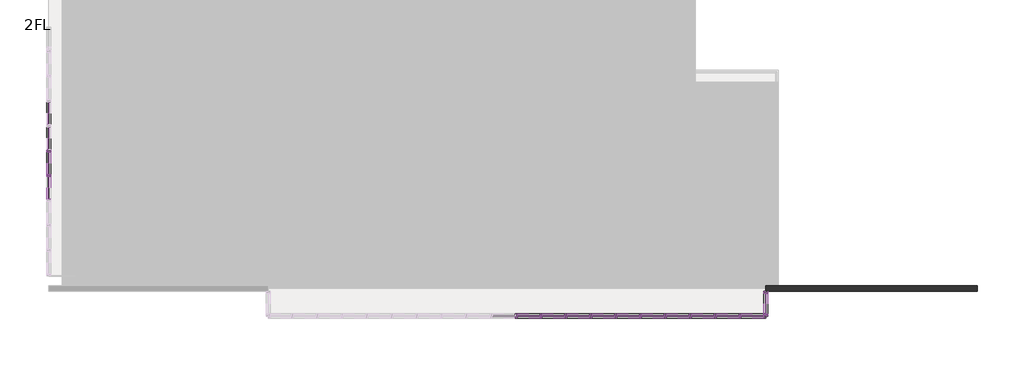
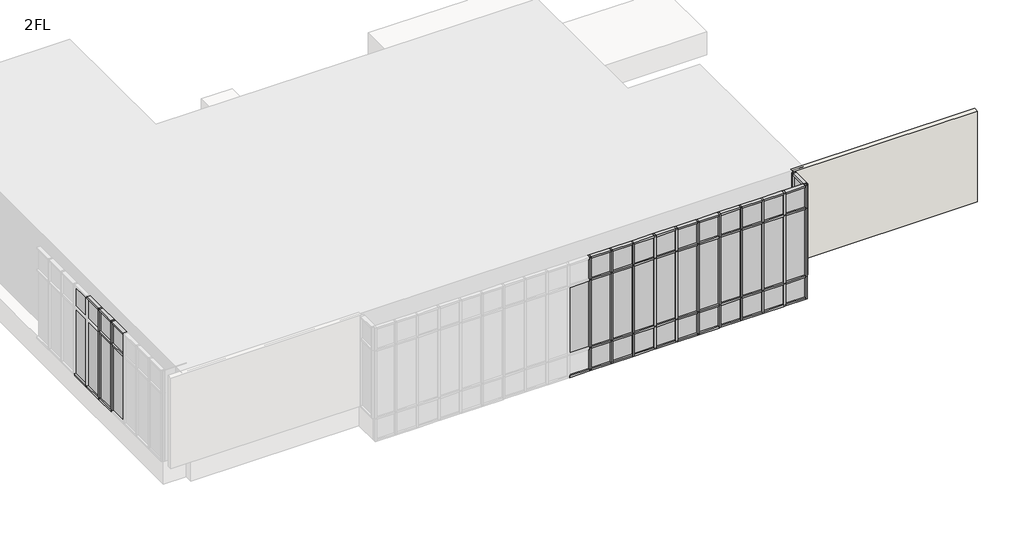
# One storey, part 2 of 4: 93 members, 41 plates, 1 wall.
"""IFC4 building model written with IfcOpenShell, lengths in millimetres."""

from ifc_helpers import new_model, si_unit, origin, place, context, project, spatial, faceted_brep, transform, mapped, element, save
from components import member_70x150_cdd4dcf9, member_70x150_9a135ce4, member_70x150_66cf63de, member_70x150_26475b18, member_70x150_ad4265bc, member_70x150_e0eddb57, member_70x150_1b280ac3, member_70x150_76429c73, plate_28587fd3, plate_4b01b467, plate_396bcf3c, plate_83f08a3e, plate_a71482e5

model = new_model("IFC4")

# Units and contexts
model_context = context("Model", 3, world=origin())
ifc_project = project(units=[si_unit("LENGTHUNIT", "METRE", prefix="MILLI")], contexts=[model_context])

# Site, building, storey
site = spatial("IfcSite", under=ifc_project)
building = spatial("IfcBuilding", under=site)
storey = spatial("IfcBuildingStorey", under=building, Name="2FL", Elevation=4600.0)

# Members
placement = place(None, origin())
member_70x150_shape = member_70x150_cdd4dcf9(model_context)
element("IfcMember", 1, ObjectType="長方形のマリオン : 70x150", at=placement, inside=storey, context=model_context, shape_type="MappedRepresentation", body=[
    mapped(member_70x150_shape, transform((-29345.9784025, 1434.6868987, 4600.0), x_axis=(0.0, 1.0, 0.0), y_axis=(1.0, 0.0, 0.0), z_axis=(0.0, 0.0, -1.0))),
])
element("IfcMember", 2, ObjectType="長方形のマリオン : 70x150", at=placement, inside=storey, context=model_context, shape_type="MappedRepresentation", body=[
    mapped(member_70x150_shape, transform((-29345.9784025, 534.6868987, 4600.0), x_axis=(0.0, 1.0, 0.0), y_axis=(1.0, 0.0, 0.0), z_axis=(0.0, 0.0, -1.0))),
])
member_70x150_2_shape = member_70x150_9a135ce4(model_context)
element("IfcMember", 3, ObjectType="長方形のマリオン : 70x150", at=placement, inside=storey, context=model_context, shape_type="MappedRepresentation", body=[
    mapped(member_70x150_2_shape, transform((-3395.9784025, -4480.3131013, 8600.0), x_axis=(0.0, 0.0, 1.0), y_axis=(-1.0, 0.0, 0.0), z_axis=(0.0, -1.0, 0.0))),
])
member_70x150_3_shape = member_70x150_66cf63de(model_context)
element("IfcMember", 4, ObjectType="長方形のマリオン : 70x150", at=placement, inside=storey, context=model_context, shape_type="MappedRepresentation", body=[
    mapped(member_70x150_3_shape, transform((-12465.9784025, -4550.3131013, 3600.0), x_axis=(0.0, 0.0, -1.0), y_axis=(0.0, 1.0, 0.0), z_axis=(1.0, 0.0, 0.0))),
])
element("IfcMember", 5, ObjectType="長方形のマリオン : 70x150", at=placement, inside=storey, context=model_context, shape_type="MappedRepresentation", body=[
    mapped(member_70x150_3_shape, transform((-11565.9784025, -4550.3131013, 3600.0), x_axis=(0.0, 0.0, -1.0), y_axis=(0.0, 1.0, 0.0), z_axis=(1.0, 0.0, 0.0))),
])
element("IfcMember", 6, ObjectType="長方形のマリオン : 70x150", at=placement, inside=storey, context=model_context, shape_type="MappedRepresentation", body=[
    mapped(member_70x150_3_shape, transform((-10665.9784025, -4550.3131013, 3600.0), x_axis=(0.0, 0.0, -1.0), y_axis=(0.0, 1.0, 0.0), z_axis=(1.0, 0.0, 0.0))),
])
element("IfcMember", 7, ObjectType="長方形のマリオン : 70x150", at=placement, inside=storey, context=model_context, shape_type="MappedRepresentation", body=[
    mapped(member_70x150_3_shape, transform((-9765.9784025, -4550.3131013, 3600.0), x_axis=(0.0, 0.0, -1.0), y_axis=(0.0, 1.0, 0.0), z_axis=(1.0, 0.0, 0.0))),
])
element("IfcMember", 8, ObjectType="長方形のマリオン : 70x150", at=placement, inside=storey, context=model_context, shape_type="MappedRepresentation", body=[
    mapped(member_70x150_3_shape, transform((-8865.9784025, -4550.3131013, 3600.0), x_axis=(0.0, 0.0, -1.0), y_axis=(0.0, 1.0, 0.0), z_axis=(1.0, 0.0, 0.0))),
])
element("IfcMember", 9, ObjectType="長方形のマリオン : 70x150", at=placement, inside=storey, context=model_context, shape_type="MappedRepresentation", body=[
    mapped(member_70x150_3_shape, transform((-7965.9784025, -4550.3131013, 3600.0), x_axis=(0.0, 0.0, -1.0), y_axis=(0.0, 1.0, 0.0), z_axis=(1.0, 0.0, 0.0))),
])
element("IfcMember", 10, ObjectType="長方形のマリオン : 70x150", at=placement, inside=storey, context=model_context, shape_type="MappedRepresentation", body=[
    mapped(member_70x150_3_shape, transform((-7065.9784025, -4550.3131013, 3600.0), x_axis=(0.0, 0.0, -1.0), y_axis=(0.0, 1.0, 0.0), z_axis=(1.0, 0.0, 0.0))),
])
element("IfcMember", 11, ObjectType="長方形のマリオン : 70x150", at=placement, inside=storey, context=model_context, shape_type="MappedRepresentation", body=[
    mapped(member_70x150_3_shape, transform((-6165.9784025, -4550.3131013, 3600.0), x_axis=(0.0, 0.0, -1.0), y_axis=(0.0, 1.0, 0.0), z_axis=(1.0, 0.0, 0.0))),
])
element("IfcMember", 12, ObjectType="長方形のマリオン : 70x150", at=placement, inside=storey, context=model_context, shape_type="MappedRepresentation", body=[
    mapped(member_70x150_3_shape, transform((-5265.9784025, -4550.3131013, 3600.0), x_axis=(0.0, 0.0, -1.0), y_axis=(0.0, 1.0, 0.0), z_axis=(1.0, 0.0, 0.0))),
])
element("IfcMember", 13, ObjectType="長方形のマリオン : 70x150", at=placement, inside=storey, context=model_context, shape_type="MappedRepresentation", body=[
    mapped(member_70x150_3_shape, transform((-4365.9784025, -4550.3131013, 3600.0), x_axis=(0.0, 0.0, -1.0), y_axis=(0.0, 1.0, 0.0), z_axis=(1.0, 0.0, 0.0))),
])
element("IfcMember", 14, ObjectType="長方形のマリオン : 70x150", at=placement, inside=storey, context=model_context, shape_type="MappedRepresentation", body=[
    mapped(member_70x150_3_shape, transform((-3465.9784025, -4550.3131013, 3600.0), x_axis=(0.0, 0.0, -1.0), y_axis=(0.0, 1.0, 0.0), z_axis=(1.0, 0.0, 0.0))),
])
element("IfcMember", 15, ObjectType="長方形のマリオン : 70x150", at=placement, inside=storey, context=model_context, shape_type="MappedRepresentation", body=[
    mapped(member_70x150_3_shape, transform((-29345.9784025, 2369.6868987, 4600.0), x_axis=(0.0, 0.0, -1.0), y_axis=(1.0, 0.0, 0.0), z_axis=(0.0, -1.0, 0.0))),
])
element("IfcMember", 16, ObjectType="長方形のマリオン : 70x150", at=placement, inside=storey, context=model_context, shape_type="MappedRepresentation", body=[
    mapped(member_70x150_3_shape, transform((-29345.9784025, 1469.6868987, 4600.0), x_axis=(0.0, 0.0, -1.0), y_axis=(1.0, 0.0, 0.0), z_axis=(0.0, -1.0, 0.0))),
])
element("IfcMember", 17, ObjectType="長方形のマリオン : 70x150", at=placement, inside=storey, context=model_context, shape_type="MappedRepresentation", body=[
    mapped(member_70x150_3_shape, transform((-29345.9784025, 569.6868987, 4600.0), x_axis=(0.0, 0.0, -1.0), y_axis=(1.0, 0.0, 0.0), z_axis=(0.0, -1.0, 0.0))),
])
element("IfcMember", 18, ObjectType="長方形のマリオン : 70x150", at=placement, inside=storey, context=model_context, shape_type="MappedRepresentation", body=[
    mapped(member_70x150_3_shape, transform((-12395.9784025, -4550.3131013, 8600.0), x_axis=(0.0, 0.0, 1.0), y_axis=(0.0, 1.0, 0.0), z_axis=(-1.0, 0.0, 0.0))),
])
element("IfcMember", 19, ObjectType="長方形のマリオン : 70x150", at=placement, inside=storey, context=model_context, shape_type="MappedRepresentation", body=[
    mapped(member_70x150_3_shape, transform((-11495.9784025, -4550.3131013, 8600.0), x_axis=(0.0, 0.0, 1.0), y_axis=(0.0, 1.0, 0.0), z_axis=(-1.0, 0.0, 0.0))),
])
element("IfcMember", 20, ObjectType="長方形のマリオン : 70x150", at=placement, inside=storey, context=model_context, shape_type="MappedRepresentation", body=[
    mapped(member_70x150_3_shape, transform((-10595.9784025, -4550.3131013, 8600.0), x_axis=(0.0, 0.0, 1.0), y_axis=(0.0, 1.0, 0.0), z_axis=(-1.0, 0.0, 0.0))),
])
element("IfcMember", 21, ObjectType="長方形のマリオン : 70x150", at=placement, inside=storey, context=model_context, shape_type="MappedRepresentation", body=[
    mapped(member_70x150_3_shape, transform((-9695.9784025, -4550.3131013, 8600.0), x_axis=(0.0, 0.0, 1.0), y_axis=(0.0, 1.0, 0.0), z_axis=(-1.0, 0.0, 0.0))),
])
element("IfcMember", 22, ObjectType="長方形のマリオン : 70x150", at=placement, inside=storey, context=model_context, shape_type="MappedRepresentation", body=[
    mapped(member_70x150_3_shape, transform((-8795.9784025, -4550.3131013, 8600.0), x_axis=(0.0, 0.0, 1.0), y_axis=(0.0, 1.0, 0.0), z_axis=(-1.0, 0.0, 0.0))),
])
element("IfcMember", 23, ObjectType="長方形のマリオン : 70x150", at=placement, inside=storey, context=model_context, shape_type="MappedRepresentation", body=[
    mapped(member_70x150_3_shape, transform((-7895.9784025, -4550.3131013, 8600.0), x_axis=(0.0, 0.0, 1.0), y_axis=(0.0, 1.0, 0.0), z_axis=(-1.0, 0.0, 0.0))),
])
element("IfcMember", 24, ObjectType="長方形のマリオン : 70x150", at=placement, inside=storey, context=model_context, shape_type="MappedRepresentation", body=[
    mapped(member_70x150_3_shape, transform((-6995.9784025, -4550.3131013, 8600.0), x_axis=(0.0, 0.0, 1.0), y_axis=(0.0, 1.0, 0.0), z_axis=(-1.0, 0.0, 0.0))),
])
element("IfcMember", 25, ObjectType="長方形のマリオン : 70x150", at=placement, inside=storey, context=model_context, shape_type="MappedRepresentation", body=[
    mapped(member_70x150_3_shape, transform((-6095.9784025, -4550.3131013, 8600.0), x_axis=(0.0, 0.0, 1.0), y_axis=(0.0, 1.0, 0.0), z_axis=(-1.0, 0.0, 0.0))),
])
element("IfcMember", 26, ObjectType="長方形のマリオン : 70x150", at=placement, inside=storey, context=model_context, shape_type="MappedRepresentation", body=[
    mapped(member_70x150_3_shape, transform((-5195.9784025, -4550.3131013, 8600.0), x_axis=(0.0, 0.0, 1.0), y_axis=(0.0, 1.0, 0.0), z_axis=(-1.0, 0.0, 0.0))),
])
element("IfcMember", 27, ObjectType="長方形のマリオン : 70x150", at=placement, inside=storey, context=model_context, shape_type="MappedRepresentation", body=[
    mapped(member_70x150_3_shape, transform((-4295.9784025, -4550.3131013, 8600.0), x_axis=(0.0, 0.0, 1.0), y_axis=(0.0, 1.0, 0.0), z_axis=(-1.0, 0.0, 0.0))),
])
element("IfcMember", 28, ObjectType="長方形のマリオン : 70x150", at=placement, inside=storey, context=model_context, shape_type="MappedRepresentation", body=[
    mapped(member_70x150_3_shape, transform((-29345.9784025, 2299.6868987, 8600.0), x_axis=(0.0, 0.0, 1.0), y_axis=(1.0, 0.0, 0.0), z_axis=(0.0, 1.0, 0.0))),
])
element("IfcMember", 29, ObjectType="長方形のマリオン : 70x150", at=placement, inside=storey, context=model_context, shape_type="MappedRepresentation", body=[
    mapped(member_70x150_3_shape, transform((-29345.9784025, 1399.6868987, 8600.0), x_axis=(0.0, 0.0, 1.0), y_axis=(1.0, 0.0, 0.0), z_axis=(0.0, 1.0, 0.0))),
])
element("IfcMember", 30, ObjectType="長方形のマリオン : 70x150", at=placement, inside=storey, context=model_context, shape_type="MappedRepresentation", body=[
    mapped(member_70x150_3_shape, transform((-29345.9784025, 499.6868987, 8600.0), x_axis=(0.0, 0.0, 1.0), y_axis=(1.0, 0.0, 0.0), z_axis=(0.0, 1.0, 0.0))),
])
element("IfcMember", 31, ObjectType="長方形のマリオン : 70x150", at=placement, inside=storey, context=model_context, shape_type="MappedRepresentation", body=[
    mapped(member_70x150_2_shape, transform((-3395.9784025, -3720.3131013, 4600.0), x_axis=(0.0, 0.0, -1.0), y_axis=(-1.0, 0.0, 0.0), z_axis=(0.0, 1.0, 0.0))),
])
member_70x150_4_shape = member_70x150_26475b18(model_context)
element("IfcMember", 32, ObjectType="長方形のマリオン : 70x150", at=placement, inside=storey, context=model_context, shape_type="MappedRepresentation", body=[
    mapped(member_70x150_4_shape, transform((-5230.9784025, -4550.3131013, 7600.0), x_axis=(-1.0, 0.0, 0.0), y_axis=(0.0, 1.0, 0.0), z_axis=(0.0, 0.0, -1.0))),
])
element("IfcMember", 33, ObjectType="長方形のマリオン : 70x150", at=placement, inside=storey, context=model_context, shape_type="MappedRepresentation", body=[
    mapped(member_70x150_4_shape, transform((-4330.9784025, -4550.3131013, 7600.0), x_axis=(-1.0, 0.0, 0.0), y_axis=(0.0, 1.0, 0.0), z_axis=(0.0, 0.0, -1.0))),
])
element("IfcMember", 34, ObjectType="長方形のマリオン : 70x150", at=placement, inside=storey, context=model_context, shape_type="MappedRepresentation", body=[
    mapped(member_70x150_4_shape, transform((-12430.9784025, -4550.3131013, 7600.0), x_axis=(-1.0, 0.0, 0.0), y_axis=(0.0, 1.0, 0.0), z_axis=(0.0, 0.0, -1.0))),
])
element("IfcMember", 35, ObjectType="長方形のマリオン : 70x150", at=placement, inside=storey, context=model_context, shape_type="MappedRepresentation", body=[
    mapped(member_70x150_4_shape, transform((-11530.9784025, -4550.3131013, 7600.0), x_axis=(-1.0, 0.0, 0.0), y_axis=(0.0, 1.0, 0.0), z_axis=(0.0, 0.0, -1.0))),
])
element("IfcMember", 36, ObjectType="長方形のマリオン : 70x150", at=placement, inside=storey, context=model_context, shape_type="MappedRepresentation", body=[
    mapped(member_70x150_4_shape, transform((-10630.9784025, -4550.3131013, 7600.0), x_axis=(-1.0, 0.0, 0.0), y_axis=(0.0, 1.0, 0.0), z_axis=(0.0, 0.0, -1.0))),
])
element("IfcMember", 37, ObjectType="長方形のマリオン : 70x150", at=placement, inside=storey, context=model_context, shape_type="MappedRepresentation", body=[
    mapped(member_70x150_4_shape, transform((-9730.9784025, -4550.3131013, 7600.0), x_axis=(-1.0, 0.0, 0.0), y_axis=(0.0, 1.0, 0.0), z_axis=(0.0, 0.0, -1.0))),
])
element("IfcMember", 38, ObjectType="長方形のマリオン : 70x150", at=placement, inside=storey, context=model_context, shape_type="MappedRepresentation", body=[
    mapped(member_70x150_4_shape, transform((-8830.9784025, -4550.3131013, 7600.0), x_axis=(-1.0, 0.0, 0.0), y_axis=(0.0, 1.0, 0.0), z_axis=(0.0, 0.0, -1.0))),
])
element("IfcMember", 39, ObjectType="長方形のマリオン : 70x150", at=placement, inside=storey, context=model_context, shape_type="MappedRepresentation", body=[
    mapped(member_70x150_4_shape, transform((-7930.9784025, -4550.3131013, 7600.0), x_axis=(-1.0, 0.0, 0.0), y_axis=(0.0, 1.0, 0.0), z_axis=(0.0, 0.0, -1.0))),
])
element("IfcMember", 40, ObjectType="長方形のマリオン : 70x150", at=placement, inside=storey, context=model_context, shape_type="MappedRepresentation", body=[
    mapped(member_70x150_4_shape, transform((-7030.9784025, -4550.3131013, 7600.0), x_axis=(-1.0, 0.0, 0.0), y_axis=(0.0, 1.0, 0.0), z_axis=(0.0, 0.0, -1.0))),
])
element("IfcMember", 41, ObjectType="長方形のマリオン : 70x150", at=placement, inside=storey, context=model_context, shape_type="MappedRepresentation", body=[
    mapped(member_70x150_4_shape, transform((-6130.9784025, -4550.3131013, 7600.0), x_axis=(-1.0, 0.0, 0.0), y_axis=(0.0, 1.0, 0.0), z_axis=(0.0, 0.0, -1.0))),
])
element("IfcMember", 42, ObjectType="長方形のマリオン : 70x150", at=placement, inside=storey, context=model_context, shape_type="MappedRepresentation", body=[
    mapped(member_70x150_4_shape, transform((-29345.9784025, 1434.6868987, 7600.0), x_axis=(0.0, 1.0, 0.0), y_axis=(1.0, 0.0, 0.0), z_axis=(0.0, 0.0, -1.0))),
])
element("IfcMember", 43, ObjectType="長方形のマリオン : 70x150", at=placement, inside=storey, context=model_context, shape_type="MappedRepresentation", body=[
    mapped(member_70x150_4_shape, transform((-29345.9784025, 534.6868987, 7600.0), x_axis=(0.0, 1.0, 0.0), y_axis=(1.0, 0.0, 0.0), z_axis=(0.0, 0.0, -1.0))),
])
member_70x150_5_shape = member_70x150_ad4265bc(model_context)
element("IfcMember", 44, ObjectType="長方形のマリオン : 70x150", at=placement, inside=storey, context=model_context, shape_type="MappedRepresentation", body=[
    mapped(member_70x150_5_shape, transform((-12395.9784025, -4550.3131013, 4600.0), x_axis=(0.0, 0.0, 1.0), y_axis=(0.0, 1.0, 0.0), z_axis=(-1.0, 0.0, 0.0))),
])
element("IfcMember", 45, ObjectType="長方形のマリオン : 70x150", at=placement, inside=storey, context=model_context, shape_type="MappedRepresentation", body=[
    mapped(member_70x150_5_shape, transform((-11495.9784025, -4550.3131013, 4600.0), x_axis=(0.0, 0.0, 1.0), y_axis=(0.0, 1.0, 0.0), z_axis=(-1.0, 0.0, 0.0))),
])
element("IfcMember", 46, ObjectType="長方形のマリオン : 70x150", at=placement, inside=storey, context=model_context, shape_type="MappedRepresentation", body=[
    mapped(member_70x150_5_shape, transform((-10595.9784025, -4550.3131013, 4600.0), x_axis=(0.0, 0.0, 1.0), y_axis=(0.0, 1.0, 0.0), z_axis=(-1.0, 0.0, 0.0))),
])
element("IfcMember", 47, ObjectType="長方形のマリオン : 70x150", at=placement, inside=storey, context=model_context, shape_type="MappedRepresentation", body=[
    mapped(member_70x150_5_shape, transform((-9695.9784025, -4550.3131013, 4600.0), x_axis=(0.0, 0.0, 1.0), y_axis=(0.0, 1.0, 0.0), z_axis=(-1.0, 0.0, 0.0))),
])
element("IfcMember", 48, ObjectType="長方形のマリオン : 70x150", at=placement, inside=storey, context=model_context, shape_type="MappedRepresentation", body=[
    mapped(member_70x150_5_shape, transform((-8795.9784025, -4550.3131013, 4600.0), x_axis=(0.0, 0.0, 1.0), y_axis=(0.0, 1.0, 0.0), z_axis=(-1.0, 0.0, 0.0))),
])
element("IfcMember", 49, ObjectType="長方形のマリオン : 70x150", at=placement, inside=storey, context=model_context, shape_type="MappedRepresentation", body=[
    mapped(member_70x150_5_shape, transform((-7895.9784025, -4550.3131013, 4600.0), x_axis=(0.0, 0.0, 1.0), y_axis=(0.0, 1.0, 0.0), z_axis=(-1.0, 0.0, 0.0))),
])
element("IfcMember", 50, ObjectType="長方形のマリオン : 70x150", at=placement, inside=storey, context=model_context, shape_type="MappedRepresentation", body=[
    mapped(member_70x150_5_shape, transform((-6995.9784025, -4550.3131013, 4600.0), x_axis=(0.0, 0.0, 1.0), y_axis=(0.0, 1.0, 0.0), z_axis=(-1.0, 0.0, 0.0))),
])
element("IfcMember", 51, ObjectType="長方形のマリオン : 70x150", at=placement, inside=storey, context=model_context, shape_type="MappedRepresentation", body=[
    mapped(member_70x150_5_shape, transform((-6095.9784025, -4550.3131013, 4600.0), x_axis=(0.0, 0.0, 1.0), y_axis=(0.0, 1.0, 0.0), z_axis=(-1.0, 0.0, 0.0))),
])
element("IfcMember", 52, ObjectType="長方形のマリオン : 70x150", at=placement, inside=storey, context=model_context, shape_type="MappedRepresentation", body=[
    mapped(member_70x150_5_shape, transform((-5195.9784025, -4550.3131013, 4600.0), x_axis=(0.0, 0.0, 1.0), y_axis=(0.0, 1.0, 0.0), z_axis=(-1.0, 0.0, 0.0))),
])
element("IfcMember", 53, ObjectType="長方形のマリオン : 70x150", at=placement, inside=storey, context=model_context, shape_type="MappedRepresentation", body=[
    mapped(member_70x150_5_shape, transform((-4295.9784025, -4550.3131013, 4600.0), x_axis=(0.0, 0.0, 1.0), y_axis=(0.0, 1.0, 0.0), z_axis=(-1.0, 0.0, 0.0))),
])
element("IfcMember", 54, ObjectType="長方形のマリオン : 70x150", at=placement, inside=storey, context=model_context, shape_type="MappedRepresentation", body=[
    mapped(member_70x150_5_shape, transform((-12395.9784025, -4550.3131013, 7600.0), x_axis=(0.0, 0.0, 1.0), y_axis=(0.0, 1.0, 0.0), z_axis=(-1.0, 0.0, 0.0))),
])
element("IfcMember", 55, ObjectType="長方形のマリオン : 70x150", at=placement, inside=storey, context=model_context, shape_type="MappedRepresentation", body=[
    mapped(member_70x150_5_shape, transform((-11495.9784025, -4550.3131013, 7600.0), x_axis=(0.0, 0.0, 1.0), y_axis=(0.0, 1.0, 0.0), z_axis=(-1.0, 0.0, 0.0))),
])
element("IfcMember", 56, ObjectType="長方形のマリオン : 70x150", at=placement, inside=storey, context=model_context, shape_type="MappedRepresentation", body=[
    mapped(member_70x150_5_shape, transform((-10595.9784025, -4550.3131013, 7600.0), x_axis=(0.0, 0.0, 1.0), y_axis=(0.0, 1.0, 0.0), z_axis=(-1.0, 0.0, 0.0))),
])
element("IfcMember", 57, ObjectType="長方形のマリオン : 70x150", at=placement, inside=storey, context=model_context, shape_type="MappedRepresentation", body=[
    mapped(member_70x150_5_shape, transform((-9695.9784025, -4550.3131013, 7600.0), x_axis=(0.0, 0.0, 1.0), y_axis=(0.0, 1.0, 0.0), z_axis=(-1.0, 0.0, 0.0))),
])
element("IfcMember", 58, ObjectType="長方形のマリオン : 70x150", at=placement, inside=storey, context=model_context, shape_type="MappedRepresentation", body=[
    mapped(member_70x150_5_shape, transform((-8795.9784025, -4550.3131013, 7600.0), x_axis=(0.0, 0.0, 1.0), y_axis=(0.0, 1.0, 0.0), z_axis=(-1.0, 0.0, 0.0))),
])
element("IfcMember", 59, ObjectType="長方形のマリオン : 70x150", at=placement, inside=storey, context=model_context, shape_type="MappedRepresentation", body=[
    mapped(member_70x150_5_shape, transform((-7895.9784025, -4550.3131013, 7600.0), x_axis=(0.0, 0.0, 1.0), y_axis=(0.0, 1.0, 0.0), z_axis=(-1.0, 0.0, 0.0))),
])
element("IfcMember", 60, ObjectType="長方形のマリオン : 70x150", at=placement, inside=storey, context=model_context, shape_type="MappedRepresentation", body=[
    mapped(member_70x150_5_shape, transform((-6995.9784025, -4550.3131013, 7600.0), x_axis=(0.0, 0.0, 1.0), y_axis=(0.0, 1.0, 0.0), z_axis=(-1.0, 0.0, 0.0))),
])
element("IfcMember", 61, ObjectType="長方形のマリオン : 70x150", at=placement, inside=storey, context=model_context, shape_type="MappedRepresentation", body=[
    mapped(member_70x150_5_shape, transform((-6095.9784025, -4550.3131013, 7600.0), x_axis=(0.0, 0.0, 1.0), y_axis=(0.0, 1.0, 0.0), z_axis=(-1.0, 0.0, 0.0))),
])
element("IfcMember", 62, ObjectType="長方形のマリオン : 70x150", at=placement, inside=storey, context=model_context, shape_type="MappedRepresentation", body=[
    mapped(member_70x150_5_shape, transform((-5195.9784025, -4550.3131013, 7600.0), x_axis=(0.0, 0.0, 1.0), y_axis=(0.0, 1.0, 0.0), z_axis=(-1.0, 0.0, 0.0))),
])
element("IfcMember", 63, ObjectType="長方形のマリオン : 70x150", at=placement, inside=storey, context=model_context, shape_type="MappedRepresentation", body=[
    mapped(member_70x150_5_shape, transform((-4295.9784025, -4550.3131013, 7600.0), x_axis=(0.0, 0.0, 1.0), y_axis=(0.0, 1.0, 0.0), z_axis=(-1.0, 0.0, 0.0))),
])
element("IfcMember", 64, ObjectType="長方形のマリオン : 70x150", at=placement, inside=storey, context=model_context, shape_type="MappedRepresentation", body=[
    mapped(member_70x150_5_shape, transform((-29345.9784025, 1399.6868987, 7600.0), x_axis=(0.0, 0.0, 1.0), y_axis=(1.0, 0.0, 0.0), z_axis=(0.0, 1.0, 0.0))),
])
element("IfcMember", 65, ObjectType="長方形のマリオン : 70x150", at=placement, inside=storey, context=model_context, shape_type="MappedRepresentation", body=[
    mapped(member_70x150_5_shape, transform((-29345.9784025, 499.6868987, 7600.0), x_axis=(0.0, 0.0, 1.0), y_axis=(1.0, 0.0, 0.0), z_axis=(0.0, 1.0, 0.0))),
])
member_70x150_6_shape = member_70x150_e0eddb57(model_context)
element("IfcMember", 66, ObjectType="長方形のマリオン : 70x150", at=placement, inside=storey, context=model_context, shape_type="MappedRepresentation", body=[
    mapped(member_70x150_6_shape, transform((-3395.9784025, -4480.3131013, 7600.0), x_axis=(0.0, 0.0, 1.0), y_axis=(-1.0, 0.0, 0.0), z_axis=(0.0, -1.0, 0.0))),
])
member_70x150_7_shape = member_70x150_1b280ac3(model_context)
element("IfcMember", 67, ObjectType="長方形のマリオン : 70x150", at=placement, inside=storey, context=model_context, shape_type="MappedRepresentation", body=[
    mapped(member_70x150_7_shape, transform((-3395.9784025, -4550.3131013, 4600.0), x_axis=(0.0, -1.0, 0.0), y_axis=(-1.0, 0.0, 0.0), z_axis=(0.0, 0.0, -1.0))),
])
member_70x150_8_shape = member_70x150_76429c73(model_context)
element("IfcMember", 68, ObjectType="長方形のマリオン : 70x150", at=placement, inside=storey, context=model_context, shape_type="MappedRepresentation", body=[
    mapped(member_70x150_8_shape, transform((-3395.9784025, -4550.3131013, 8600.0), x_axis=(1.0, 0.0, 0.0), y_axis=(0.0, 1.0, 0.0), z_axis=(0.0, 0.0, 1.0))),
])
element("IfcMember", 69, ObjectType="長方形のマリオン : 70x150", at=placement, inside=storey, context=model_context, shape_type="MappedRepresentation", body=[
    mapped(member_70x150_8_shape, transform((-3395.9784025, -3650.3131013, 8600.0), x_axis=(0.0, 1.0, 0.0), y_axis=(-1.0, 0.0, 0.0), z_axis=(0.0, 0.0, 1.0))),
])
element("IfcMember", 70, ObjectType="長方形のマリオン : 70x150", at=placement, inside=storey, context=model_context, shape_type="MappedRepresentation", body=[
    mapped(member_70x150_8_shape, transform((-3395.9784025, -4550.3131013, 7600.0), x_axis=(0.0, -1.0, 0.0), y_axis=(-1.0, 0.0, 0.0), z_axis=(0.0, 0.0, -1.0))),
])
element("IfcMember", 71, ObjectType="長方形のマリオン : 70x150", at=placement, inside=storey, context=model_context, shape_type="MappedRepresentation", body=[
    mapped(member_70x150_7_shape, transform((-3395.9784025, -3650.3131013, 7600.0), x_axis=(0.0, 1.0, 0.0), y_axis=(-1.0, 0.0, 0.0), z_axis=(0.0, 0.0, 1.0))),
])
element("IfcMember", 72, ObjectType="長方形のマリオン : 70x150", at=placement, inside=storey, context=model_context, shape_type="MappedRepresentation", body=[
    mapped(member_70x150_4_shape, transform((-12430.9784025, -4550.3131013, 3600.0), x_axis=(-1.0, 0.0, 0.0), y_axis=(0.0, 1.0, 0.0), z_axis=(0.0, 0.0, -1.0))),
])
element("IfcMember", 73, ObjectType="長方形のマリオン : 70x150", at=placement, inside=storey, context=model_context, shape_type="MappedRepresentation", body=[
    mapped(member_70x150_4_shape, transform((-11530.9784025, -4550.3131013, 3600.0), x_axis=(-1.0, 0.0, 0.0), y_axis=(0.0, 1.0, 0.0), z_axis=(0.0, 0.0, -1.0))),
])
element("IfcMember", 74, ObjectType="長方形のマリオン : 70x150", at=placement, inside=storey, context=model_context, shape_type="MappedRepresentation", body=[
    mapped(member_70x150_4_shape, transform((-10630.9784025, -4550.3131013, 3600.0), x_axis=(-1.0, 0.0, 0.0), y_axis=(0.0, 1.0, 0.0), z_axis=(0.0, 0.0, -1.0))),
])
element("IfcMember", 75, ObjectType="長方形のマリオン : 70x150", at=placement, inside=storey, context=model_context, shape_type="MappedRepresentation", body=[
    mapped(member_70x150_4_shape, transform((-9730.9784025, -4550.3131013, 3600.0), x_axis=(-1.0, 0.0, 0.0), y_axis=(0.0, 1.0, 0.0), z_axis=(0.0, 0.0, -1.0))),
])
element("IfcMember", 76, ObjectType="長方形のマリオン : 70x150", at=placement, inside=storey, context=model_context, shape_type="MappedRepresentation", body=[
    mapped(member_70x150_4_shape, transform((-8830.9784025, -4550.3131013, 3600.0), x_axis=(-1.0, 0.0, 0.0), y_axis=(0.0, 1.0, 0.0), z_axis=(0.0, 0.0, -1.0))),
])
element("IfcMember", 77, ObjectType="長方形のマリオン : 70x150", at=placement, inside=storey, context=model_context, shape_type="MappedRepresentation", body=[
    mapped(member_70x150_4_shape, transform((-7930.9784025, -4550.3131013, 3600.0), x_axis=(-1.0, 0.0, 0.0), y_axis=(0.0, 1.0, 0.0), z_axis=(0.0, 0.0, -1.0))),
])
element("IfcMember", 78, ObjectType="長方形のマリオン : 70x150", at=placement, inside=storey, context=model_context, shape_type="MappedRepresentation", body=[
    mapped(member_70x150_4_shape, transform((-7030.9784025, -4550.3131013, 3600.0), x_axis=(-1.0, 0.0, 0.0), y_axis=(0.0, 1.0, 0.0), z_axis=(0.0, 0.0, -1.0))),
])
element("IfcMember", 79, ObjectType="長方形のマリオン : 70x150", at=placement, inside=storey, context=model_context, shape_type="MappedRepresentation", body=[
    mapped(member_70x150_4_shape, transform((-6130.9784025, -4550.3131013, 3600.0), x_axis=(-1.0, 0.0, 0.0), y_axis=(0.0, 1.0, 0.0), z_axis=(0.0, 0.0, -1.0))),
])
element("IfcMember", 80, ObjectType="長方形のマリオン : 70x150", at=placement, inside=storey, context=model_context, shape_type="MappedRepresentation", body=[
    mapped(member_70x150_4_shape, transform((-5230.9784025, -4550.3131013, 3600.0), x_axis=(-1.0, 0.0, 0.0), y_axis=(0.0, 1.0, 0.0), z_axis=(0.0, 0.0, -1.0))),
])
element("IfcMember", 81, ObjectType="長方形のマリオン : 70x150", at=placement, inside=storey, context=model_context, shape_type="MappedRepresentation", body=[
    mapped(member_70x150_4_shape, transform((-4330.9784025, -4550.3131013, 3600.0), x_axis=(-1.0, 0.0, 0.0), y_axis=(0.0, 1.0, 0.0), z_axis=(0.0, 0.0, -1.0))),
])
element("IfcMember", 82, ObjectType="長方形のマリオン : 70x150", at=placement, inside=storey, context=model_context, shape_type="MappedRepresentation", body=[
    mapped(member_70x150_shape, transform((-4330.9784025, -4550.3131013, 4600.0), x_axis=(-1.0, 0.0, 0.0), y_axis=(0.0, 1.0, 0.0), z_axis=(0.0, 0.0, -1.0))),
])
element("IfcMember", 83, ObjectType="長方形のマリオン : 70x150", at=placement, inside=storey, context=model_context, shape_type="MappedRepresentation", body=[
    mapped(member_70x150_shape, transform((-12430.9784025, -4550.3131013, 4600.0), x_axis=(-1.0, 0.0, 0.0), y_axis=(0.0, 1.0, 0.0), z_axis=(0.0, 0.0, -1.0))),
])
element("IfcMember", 84, ObjectType="長方形のマリオン : 70x150", at=placement, inside=storey, context=model_context, shape_type="MappedRepresentation", body=[
    mapped(member_70x150_shape, transform((-11530.9784025, -4550.3131013, 4600.0), x_axis=(-1.0, 0.0, 0.0), y_axis=(0.0, 1.0, 0.0), z_axis=(0.0, 0.0, -1.0))),
])
element("IfcMember", 85, ObjectType="長方形のマリオン : 70x150", at=placement, inside=storey, context=model_context, shape_type="MappedRepresentation", body=[
    mapped(member_70x150_shape, transform((-10630.9784025, -4550.3131013, 4600.0), x_axis=(-1.0, 0.0, 0.0), y_axis=(0.0, 1.0, 0.0), z_axis=(0.0, 0.0, -1.0))),
])
element("IfcMember", 86, ObjectType="長方形のマリオン : 70x150", at=placement, inside=storey, context=model_context, shape_type="MappedRepresentation", body=[
    mapped(member_70x150_shape, transform((-9730.9784025, -4550.3131013, 4600.0), x_axis=(-1.0, 0.0, 0.0), y_axis=(0.0, 1.0, 0.0), z_axis=(0.0, 0.0, -1.0))),
])
element("IfcMember", 87, ObjectType="長方形のマリオン : 70x150", at=placement, inside=storey, context=model_context, shape_type="MappedRepresentation", body=[
    mapped(member_70x150_shape, transform((-8830.9784025, -4550.3131013, 4600.0), x_axis=(-1.0, 0.0, 0.0), y_axis=(0.0, 1.0, 0.0), z_axis=(0.0, 0.0, -1.0))),
])
element("IfcMember", 88, ObjectType="長方形のマリオン : 70x150", at=placement, inside=storey, context=model_context, shape_type="MappedRepresentation", body=[
    mapped(member_70x150_shape, transform((-7930.9784025, -4550.3131013, 4600.0), x_axis=(-1.0, 0.0, 0.0), y_axis=(0.0, 1.0, 0.0), z_axis=(0.0, 0.0, -1.0))),
])
element("IfcMember", 89, ObjectType="長方形のマリオン : 70x150", at=placement, inside=storey, context=model_context, shape_type="MappedRepresentation", body=[
    mapped(member_70x150_shape, transform((-7030.9784025, -4550.3131013, 4600.0), x_axis=(-1.0, 0.0, 0.0), y_axis=(0.0, 1.0, 0.0), z_axis=(0.0, 0.0, -1.0))),
])
element("IfcMember", 90, ObjectType="長方形のマリオン : 70x150", at=placement, inside=storey, context=model_context, shape_type="MappedRepresentation", body=[
    mapped(member_70x150_shape, transform((-6130.9784025, -4550.3131013, 4600.0), x_axis=(-1.0, 0.0, 0.0), y_axis=(0.0, 1.0, 0.0), z_axis=(0.0, 0.0, -1.0))),
])
element("IfcMember", 91, ObjectType="長方形のマリオン : 70x150", at=placement, inside=storey, context=model_context, shape_type="MappedRepresentation", body=[
    mapped(member_70x150_shape, transform((-5230.9784025, -4550.3131013, 4600.0), x_axis=(-1.0, 0.0, 0.0), y_axis=(0.0, 1.0, 0.0), z_axis=(0.0, 0.0, -1.0))),
])
element("IfcMember", 92, ObjectType="長方形のマリオン : 70x150", at=placement, inside=storey, context=model_context, shape_type="MappedRepresentation", body=[
    mapped(member_70x150_8_shape, transform((-3395.9784025, -4550.3131013, 4600.0), x_axis=(1.0, 0.0, 0.0), y_axis=(0.0, 1.0, 0.0), z_axis=(0.0, 0.0, 1.0))),
])
element("IfcMember", 93, ObjectType="長方形のマリオン : 70x150", at=placement, inside=storey, context=model_context, shape_type="MappedRepresentation", body=[
    mapped(member_70x150_7_shape, transform((-3395.9784025, -4550.3131013, 7600.0), x_axis=(1.0, 0.0, 0.0), y_axis=(0.0, 1.0, 0.0), z_axis=(0.0, 0.0, 1.0))),
])

# Plates
plate_shape = plate_28587fd3(model_context)
element("IfcPlate", 94, ObjectType="システム パネル : 標準", at=placement, inside=storey, context=model_context, shape_type="MappedRepresentation", body=[
    mapped(plate_shape, transform((-29345.9784025, 84.6868987, 4670.0), x_axis=(0.0, 1.0, 0.0), y_axis=(-1.0, 0.0, 0.0), z_axis=(0.0, 0.0, 1.0))),
])
element("IfcPlate", 95, ObjectType="システム パネル : 標準", at=placement, inside=storey, context=model_context, shape_type="MappedRepresentation", body=[
    mapped(plate_shape, transform((-29345.9784025, 984.6868987, 4670.0), x_axis=(0.0, 1.0, 0.0), y_axis=(-1.0, 0.0, 0.0), z_axis=(0.0, 0.0, 1.0))),
])
element("IfcPlate", 96, ObjectType="システム パネル : 標準", at=placement, inside=storey, context=model_context, shape_type="MappedRepresentation", body=[
    mapped(plate_shape, transform((-29345.9784025, 1884.6868987, 4670.0), x_axis=(0.0, 1.0, 0.0), y_axis=(-1.0, 0.0, 0.0), z_axis=(0.0, 0.0, 1.0))),
])
element("IfcPlate", 97, ObjectType="システム パネル : 標準", at=placement, inside=storey, context=model_context, shape_type="MappedRepresentation", body=[
    mapped(plate_shape, transform((-29345.9784025, 2784.6868987, 4670.0), x_axis=(0.0, 1.0, 0.0), y_axis=(-1.0, 0.0, 0.0), z_axis=(0.0, 0.0, 1.0))),
])
plate_2_shape = plate_4b01b467(model_context)
element("IfcPlate", 98, ObjectType="システム パネル : 標準", at=placement, inside=storey, context=model_context, shape_type="MappedRepresentation", body=[
    mapped(plate_2_shape, transform((-3395.9784025, -4100.3131013, 4670.0), x_axis=(0.0, -1.0, 0.0), y_axis=(1.0, 0.0, 0.0), z_axis=(0.0, 0.0, 1.0))),
])
plate_3_shape = plate_396bcf3c(model_context)
element("IfcPlate", 99, ObjectType="システム パネル : 標準", at=placement, inside=storey, context=model_context, shape_type="MappedRepresentation", body=[
    mapped(plate_3_shape, transform((-3880.9784025, -4550.3131013, 3670.0), x_axis=(-1.0, 0.0, 0.0), y_axis=(0.0, -1.0, 0.0), z_axis=(0.0, 0.0, 1.0))),
])
element("IfcPlate", 100, ObjectType="システム パネル : 標準", at=placement, inside=storey, context=model_context, shape_type="MappedRepresentation", body=[
    mapped(plate_3_shape, transform((-4780.9784025, -4550.3131013, 3670.0), x_axis=(-1.0, 0.0, 0.0), y_axis=(0.0, -1.0, 0.0), z_axis=(0.0, 0.0, 1.0))),
])
element("IfcPlate", 101, ObjectType="システム パネル : 標準", at=placement, inside=storey, context=model_context, shape_type="MappedRepresentation", body=[
    mapped(plate_3_shape, transform((-5680.9784025, -4550.3131013, 3670.0), x_axis=(-1.0, 0.0, 0.0), y_axis=(0.0, -1.0, 0.0), z_axis=(0.0, 0.0, 1.0))),
])
element("IfcPlate", 102, ObjectType="システム パネル : 標準", at=placement, inside=storey, context=model_context, shape_type="MappedRepresentation", body=[
    mapped(plate_3_shape, transform((-6580.9784025, -4550.3131013, 3670.0), x_axis=(-1.0, 0.0, 0.0), y_axis=(0.0, -1.0, 0.0), z_axis=(0.0, 0.0, 1.0))),
])
element("IfcPlate", 103, ObjectType="システム パネル : 標準", at=placement, inside=storey, context=model_context, shape_type="MappedRepresentation", body=[
    mapped(plate_3_shape, transform((-7480.9784025, -4550.3131013, 3670.0), x_axis=(-1.0, 0.0, 0.0), y_axis=(0.0, -1.0, 0.0), z_axis=(0.0, 0.0, 1.0))),
])
element("IfcPlate", 104, ObjectType="システム パネル : 標準", at=placement, inside=storey, context=model_context, shape_type="MappedRepresentation", body=[
    mapped(plate_3_shape, transform((-8380.9784025, -4550.3131013, 3670.0), x_axis=(-1.0, 0.0, 0.0), y_axis=(0.0, -1.0, 0.0), z_axis=(0.0, 0.0, 1.0))),
])
element("IfcPlate", 105, ObjectType="システム パネル : 標準", at=placement, inside=storey, context=model_context, shape_type="MappedRepresentation", body=[
    mapped(plate_3_shape, transform((-9280.9784025, -4550.3131013, 3670.0), x_axis=(-1.0, 0.0, 0.0), y_axis=(0.0, -1.0, 0.0), z_axis=(0.0, 0.0, 1.0))),
])
element("IfcPlate", 106, ObjectType="システム パネル : 標準", at=placement, inside=storey, context=model_context, shape_type="MappedRepresentation", body=[
    mapped(plate_3_shape, transform((-10180.9784025, -4550.3131013, 3670.0), x_axis=(-1.0, 0.0, 0.0), y_axis=(0.0, -1.0, 0.0), z_axis=(0.0, 0.0, 1.0))),
])
element("IfcPlate", 107, ObjectType="システム パネル : 標準", at=placement, inside=storey, context=model_context, shape_type="MappedRepresentation", body=[
    mapped(plate_3_shape, transform((-11080.9784025, -4550.3131013, 3670.0), x_axis=(-1.0, 0.0, 0.0), y_axis=(0.0, -1.0, 0.0), z_axis=(0.0, 0.0, 1.0))),
])
element("IfcPlate", 108, ObjectType="システム パネル : 標準", at=placement, inside=storey, context=model_context, shape_type="MappedRepresentation", body=[
    mapped(plate_3_shape, transform((-11980.9784025, -4550.3131013, 3670.0), x_axis=(-1.0, 0.0, 0.0), y_axis=(0.0, -1.0, 0.0), z_axis=(0.0, 0.0, 1.0))),
])
element("IfcPlate", 109, ObjectType="システム パネル : 標準", at=placement, inside=storey, context=model_context, shape_type="MappedRepresentation", body=[
    mapped(plate_3_shape, transform((-3880.9784025, -4550.3131013, 7635.0), x_axis=(-1.0, 0.0, 0.0), y_axis=(0.0, -1.0, 0.0), z_axis=(0.0, 0.0, 1.0))),
])
element("IfcPlate", 110, ObjectType="システム パネル : 標準", at=placement, inside=storey, context=model_context, shape_type="MappedRepresentation", body=[
    mapped(plate_3_shape, transform((-4780.9784025, -4550.3131013, 7635.0), x_axis=(-1.0, 0.0, 0.0), y_axis=(0.0, -1.0, 0.0), z_axis=(0.0, 0.0, 1.0))),
])
element("IfcPlate", 111, ObjectType="システム パネル : 標準", at=placement, inside=storey, context=model_context, shape_type="MappedRepresentation", body=[
    mapped(plate_3_shape, transform((-5680.9784025, -4550.3131013, 7635.0), x_axis=(-1.0, 0.0, 0.0), y_axis=(0.0, -1.0, 0.0), z_axis=(0.0, 0.0, 1.0))),
])
element("IfcPlate", 112, ObjectType="システム パネル : 標準", at=placement, inside=storey, context=model_context, shape_type="MappedRepresentation", body=[
    mapped(plate_3_shape, transform((-6580.9784025, -4550.3131013, 7635.0), x_axis=(-1.0, 0.0, 0.0), y_axis=(0.0, -1.0, 0.0), z_axis=(0.0, 0.0, 1.0))),
])
element("IfcPlate", 113, ObjectType="システム パネル : 標準", at=placement, inside=storey, context=model_context, shape_type="MappedRepresentation", body=[
    mapped(plate_3_shape, transform((-7480.9784025, -4550.3131013, 7635.0), x_axis=(-1.0, 0.0, 0.0), y_axis=(0.0, -1.0, 0.0), z_axis=(0.0, 0.0, 1.0))),
])
element("IfcPlate", 114, ObjectType="システム パネル : 標準", at=placement, inside=storey, context=model_context, shape_type="MappedRepresentation", body=[
    mapped(plate_3_shape, transform((-8380.9784025, -4550.3131013, 7635.0), x_axis=(-1.0, 0.0, 0.0), y_axis=(0.0, -1.0, 0.0), z_axis=(0.0, 0.0, 1.0))),
])
element("IfcPlate", 115, ObjectType="システム パネル : 標準", at=placement, inside=storey, context=model_context, shape_type="MappedRepresentation", body=[
    mapped(plate_3_shape, transform((-9280.9784025, -4550.3131013, 7635.0), x_axis=(-1.0, 0.0, 0.0), y_axis=(0.0, -1.0, 0.0), z_axis=(0.0, 0.0, 1.0))),
])
element("IfcPlate", 116, ObjectType="システム パネル : 標準", at=placement, inside=storey, context=model_context, shape_type="MappedRepresentation", body=[
    mapped(plate_3_shape, transform((-10180.9784025, -4550.3131013, 7635.0), x_axis=(-1.0, 0.0, 0.0), y_axis=(0.0, -1.0, 0.0), z_axis=(0.0, 0.0, 1.0))),
])
element("IfcPlate", 117, ObjectType="システム パネル : 標準", at=placement, inside=storey, context=model_context, shape_type="MappedRepresentation", body=[
    mapped(plate_3_shape, transform((-11080.9784025, -4550.3131013, 7635.0), x_axis=(-1.0, 0.0, 0.0), y_axis=(0.0, -1.0, 0.0), z_axis=(0.0, 0.0, 1.0))),
])
element("IfcPlate", 118, ObjectType="システム パネル : 標準", at=placement, inside=storey, context=model_context, shape_type="MappedRepresentation", body=[
    mapped(plate_3_shape, transform((-11980.9784025, -4550.3131013, 7635.0), x_axis=(-1.0, 0.0, 0.0), y_axis=(0.0, -1.0, 0.0), z_axis=(0.0, 0.0, 1.0))),
])
element("IfcPlate", 119, ObjectType="システム パネル : 標準", at=placement, inside=storey, context=model_context, shape_type="MappedRepresentation", body=[
    mapped(plate_3_shape, transform((-29345.9784025, 84.6868987, 7635.0), x_axis=(0.0, 1.0, 0.0), y_axis=(-1.0, 0.0, 0.0), z_axis=(0.0, 0.0, 1.0))),
])
element("IfcPlate", 120, ObjectType="システム パネル : 標準", at=placement, inside=storey, context=model_context, shape_type="MappedRepresentation", body=[
    mapped(plate_3_shape, transform((-29345.9784025, 984.6868987, 7635.0), x_axis=(0.0, 1.0, 0.0), y_axis=(-1.0, 0.0, 0.0), z_axis=(0.0, 0.0, 1.0))),
])
element("IfcPlate", 121, ObjectType="システム パネル : 標準", at=placement, inside=storey, context=model_context, shape_type="MappedRepresentation", body=[
    mapped(plate_3_shape, transform((-29345.9784025, 1884.6868987, 7635.0), x_axis=(0.0, 1.0, 0.0), y_axis=(-1.0, 0.0, 0.0), z_axis=(0.0, 0.0, 1.0))),
])
element("IfcPlate", 122, ObjectType="システム パネル : 標準", at=placement, inside=storey, context=model_context, shape_type="MappedRepresentation", body=[
    mapped(plate_3_shape, transform((-29345.9784025, 2784.6868987, 7635.0), x_axis=(0.0, 1.0, 0.0), y_axis=(-1.0, 0.0, 0.0), z_axis=(0.0, 0.0, 1.0))),
])
plate_4_shape = plate_83f08a3e(model_context)
element("IfcPlate", 123, ObjectType="システム パネル : 標準", at=placement, inside=storey, context=model_context, shape_type="MappedRepresentation", body=[
    mapped(plate_4_shape, transform((-3395.9784025, -4100.3131013, 7635.0), x_axis=(0.0, -1.0, 0.0), y_axis=(1.0, 0.0, 0.0), z_axis=(0.0, 0.0, 1.0))),
])
plate_5_shape = plate_a71482e5(model_context)
element("IfcPlate", 124, ObjectType="システム パネル : 標準", at=placement, inside=storey, context=model_context, shape_type="MappedRepresentation", body=[
    mapped(plate_5_shape, transform((-3880.9784025, -4550.3131013, 4635.0), x_axis=(-1.0, 0.0, 0.0), y_axis=(0.0, -1.0, 0.0), z_axis=(0.0, 0.0, 1.0))),
])
element("IfcPlate", 125, ObjectType="システム パネル : 標準", at=placement, inside=storey, context=model_context, shape_type="MappedRepresentation", body=[
    mapped(plate_5_shape, transform((-4780.9784025, -4550.3131013, 4635.0), x_axis=(-1.0, 0.0, 0.0), y_axis=(0.0, -1.0, 0.0), z_axis=(0.0, 0.0, 1.0))),
])
element("IfcPlate", 126, ObjectType="システム パネル : 標準", at=placement, inside=storey, context=model_context, shape_type="MappedRepresentation", body=[
    mapped(plate_5_shape, transform((-5680.9784025, -4550.3131013, 4635.0), x_axis=(-1.0, 0.0, 0.0), y_axis=(0.0, -1.0, 0.0), z_axis=(0.0, 0.0, 1.0))),
])
element("IfcPlate", 127, ObjectType="システム パネル : 標準", at=placement, inside=storey, context=model_context, shape_type="MappedRepresentation", body=[
    mapped(plate_5_shape, transform((-6580.9784025, -4550.3131013, 4635.0), x_axis=(-1.0, 0.0, 0.0), y_axis=(0.0, -1.0, 0.0), z_axis=(0.0, 0.0, 1.0))),
])
element("IfcPlate", 128, ObjectType="システム パネル : 標準", at=placement, inside=storey, context=model_context, shape_type="MappedRepresentation", body=[
    mapped(plate_5_shape, transform((-7480.9784025, -4550.3131013, 4635.0), x_axis=(-1.0, 0.0, 0.0), y_axis=(0.0, -1.0, 0.0), z_axis=(0.0, 0.0, 1.0))),
])
element("IfcPlate", 129, ObjectType="システム パネル : 標準", at=placement, inside=storey, context=model_context, shape_type="MappedRepresentation", body=[
    mapped(plate_5_shape, transform((-8380.9784025, -4550.3131013, 4635.0), x_axis=(-1.0, 0.0, 0.0), y_axis=(0.0, -1.0, 0.0), z_axis=(0.0, 0.0, 1.0))),
])
element("IfcPlate", 130, ObjectType="システム パネル : 標準", at=placement, inside=storey, context=model_context, shape_type="MappedRepresentation", body=[
    mapped(plate_5_shape, transform((-9280.9784025, -4550.3131013, 4635.0), x_axis=(-1.0, 0.0, 0.0), y_axis=(0.0, -1.0, 0.0), z_axis=(0.0, 0.0, 1.0))),
])
element("IfcPlate", 131, ObjectType="システム パネル : 標準", at=placement, inside=storey, context=model_context, shape_type="MappedRepresentation", body=[
    mapped(plate_5_shape, transform((-10180.9784025, -4550.3131013, 4635.0), x_axis=(-1.0, 0.0, 0.0), y_axis=(0.0, -1.0, 0.0), z_axis=(0.0, 0.0, 1.0))),
])
element("IfcPlate", 132, ObjectType="システム パネル : 標準", at=placement, inside=storey, context=model_context, shape_type="MappedRepresentation", body=[
    mapped(plate_5_shape, transform((-11080.9784025, -4550.3131013, 4635.0), x_axis=(-1.0, 0.0, 0.0), y_axis=(0.0, -1.0, 0.0), z_axis=(0.0, 0.0, 1.0))),
])
element("IfcPlate", 133, ObjectType="システム パネル : 標準", at=placement, inside=storey, context=model_context, shape_type="MappedRepresentation", body=[
    mapped(plate_5_shape, transform((-11980.9784025, -4550.3131013, 4635.0), x_axis=(-1.0, 0.0, 0.0), y_axis=(0.0, -1.0, 0.0), z_axis=(0.0, 0.0, 1.0))),
])
element("IfcPlate", 134, ObjectType="システム パネル : 標準", at=placement, inside=storey, context=model_context, shape_type="MappedRepresentation", body=[
    mapped(plate_5_shape, transform((-12880.9784025, -4550.3131013, 4635.0), x_axis=(-1.0, 0.0, 0.0), y_axis=(0.0, -1.0, 0.0), z_axis=(0.0, 0.0, 1.0))),
])

# Wall
element("IfcWall", 135, ObjectType="標準200", at=placement, inside=storey, context=model_context, shape_type="Brep", body=[
    faceted_brep([(4261.9595949, -3450.3131013, 4600.0), (1761.9595949, -3450.3131013, 4600.0), (-1195.9784025, -3450.3131013, 4600.0), (-3395.9784025, -3450.3131013, 4600.0), (-3395.9784025, -3450.3131013, 8600.0), (4261.9595949, -3450.3131013, 8600.0), (4261.9595949, -3650.3131013, 4600.0), (4261.9595949, -3650.3131013, 8600.0), (-3395.9784025, -3650.3131013, 8600.0), (-3395.9784025, -3650.3131013, 4600.0), (-1195.9784025, -3650.3131013, 4600.0), (1761.9595949, -3650.3131013, 4600.0)], [[[0, 1, 2, 3, 4, 5]], [[6, 7, 8, 9, 10, 11]], [[3, 2, 1, 0, 6, 11, 10, 9]], [[4, 3, 9, 8]], [[5, 4, 8, 7]], [[0, 5, 7, 6]]]),
])

save(model, "model.ifc")
